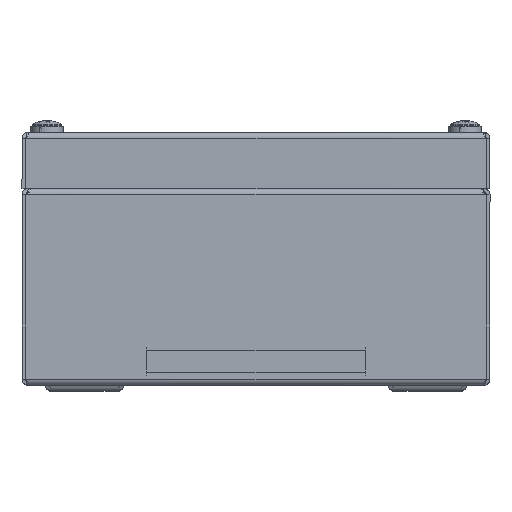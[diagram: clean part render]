
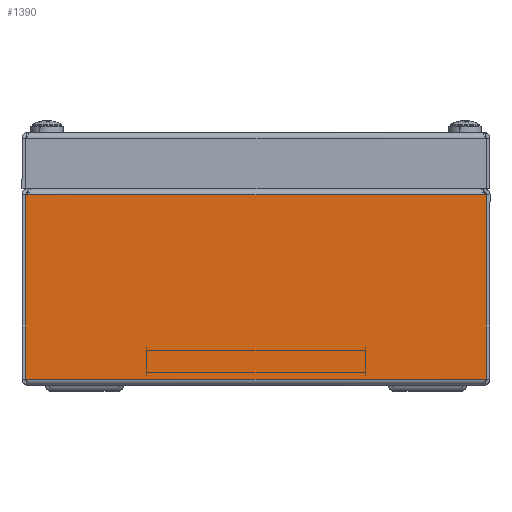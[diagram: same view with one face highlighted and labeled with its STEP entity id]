
A CAD part, front view. The second image highlights one B-rep face of the part: STEP entity #1390.
In plain terms, the highlighted planar face has unit normal (0, -1, 0).
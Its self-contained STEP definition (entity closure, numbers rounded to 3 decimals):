
#567 = AXIS2_PLACEMENT_3D ( 'NONE', #7857, #2274, #10126 ) ;
#978 = VECTOR ( 'NONE', #3520, 1000. ) ;
#1180 = LINE ( 'NONE', #7197, #8831 ) ;
#1390 = ADVANCED_FACE ( 'NONE', ( #11097 ), #4349, .F. ) ;
#1567 = EDGE_CURVE ( 'NONE', #10221, #13306, #4329, .T. ) ;
#1651 = DIRECTION ( 'NONE',  ( -1., 0., 0. ) ) ;
#1958 = CARTESIAN_POINT ( 'NONE',  ( -73.729, -200., 59.863 ) ) ;
#2142 = CARTESIAN_POINT ( 'NONE',  ( 73.729, -200., 0.737 ) ) ;
#2274 = DIRECTION ( 'NONE',  ( 0., 1., 0. ) ) ;
#3520 = DIRECTION ( 'NONE',  ( -1., 0., 0. ) ) ;
#3635 = EDGE_CURVE ( 'NONE', #6670, #11602, #6850, .T. ) ;
#4329 = LINE ( 'NONE', #4692, #14133 ) ;
#4349 = PLANE ( 'NONE',  #567 ) ;
#4556 = CARTESIAN_POINT ( 'NONE',  ( 73.729, -200., 59.863 ) ) ;
#4692 = CARTESIAN_POINT ( 'NONE',  ( -75., -200., 0.737 ) ) ;
#4945 = ORIENTED_EDGE ( 'NONE', *, *, #3635, .T. ) ;
#5223 = ORIENTED_EDGE ( 'NONE', *, *, #9241, .F. ) ;
#5629 = ORIENTED_EDGE ( 'NONE', *, *, #9707, .T. ) ;
#6670 = VERTEX_POINT ( 'NONE', #14587 ) ;
#6850 = LINE ( 'NONE', #4556, #978 ) ;
#7197 = CARTESIAN_POINT ( 'NONE',  ( -73.729, -200., 0.737 ) ) ;
#7857 = CARTESIAN_POINT ( 'NONE',  ( 0., -200., 0. ) ) ;
#7936 = CARTESIAN_POINT ( 'NONE',  ( 73.729, -200., 0.737 ) ) ;
#8097 = CARTESIAN_POINT ( 'NONE',  ( -73.729, -200., 0.737 ) ) ;
#8297 = DIRECTION ( 'NONE',  ( 0., 0., 1. ) ) ;
#8502 = VECTOR ( 'NONE', #12643, 1000. ) ;
#8831 = VECTOR ( 'NONE', #8297, 1000. ) ;
#9241 = EDGE_CURVE ( 'NONE', #13306, #11602, #1180, .T. ) ;
#9588 = ORIENTED_EDGE ( 'NONE', *, *, #1567, .F. ) ;
#9707 = EDGE_CURVE ( 'NONE', #10221, #6670, #13654, .T. ) ;
#10126 = DIRECTION ( 'NONE',  ( 0., 0., 1. ) ) ;
#10221 = VERTEX_POINT ( 'NONE', #2142 ) ;
#11097 = FACE_OUTER_BOUND ( 'NONE', #11999, .T. ) ;
#11602 = VERTEX_POINT ( 'NONE', #1958 ) ;
#11999 = EDGE_LOOP ( 'NONE', ( #4945, #5223, #9588, #5629 ) ) ;
#12643 = DIRECTION ( 'NONE',  ( 0., 0., 1. ) ) ;
#13306 = VERTEX_POINT ( 'NONE', #8097 ) ;
#13654 = LINE ( 'NONE', #7936, #8502 ) ;
#14133 = VECTOR ( 'NONE', #1651, 1000. ) ;
#14587 = CARTESIAN_POINT ( 'NONE',  ( 73.729, -200., 59.863 ) ) ;
